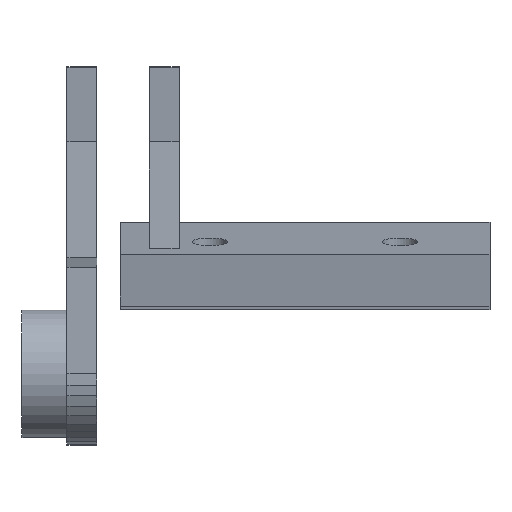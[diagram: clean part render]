
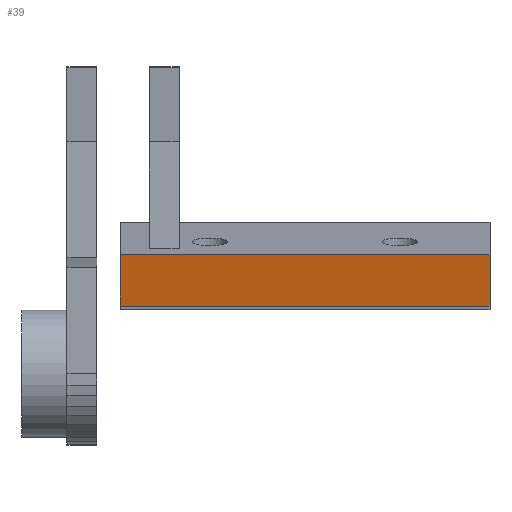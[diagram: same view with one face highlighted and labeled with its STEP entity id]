
A CAD part, left-side view. The second image highlights one B-rep face of the part: STEP entity #39.
In plain terms, the highlighted planar face has unit normal (-0.976, 0, -0.216).
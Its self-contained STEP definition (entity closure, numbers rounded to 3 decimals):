
#39 = ADVANCED_FACE('',(#40),#54,.F.);
#40 = FACE_BOUND('',#41,.F.);
#41 = EDGE_LOOP('',(#42,#77,#105,#133));
#42 = ORIENTED_EDGE('',*,*,#43,.F.);
#43 = EDGE_CURVE('',#44,#46,#48,.T.);
#44 = VERTEX_POINT('',#45);
#45 = CARTESIAN_POINT('',(1.71,22.2,-185.932));
#46 = VERTEX_POINT('',#47);
#47 = CARTESIAN_POINT('',(0.195,22.2,-179.097));
#48 = SURFACE_CURVE('',#49,(#53,#65),.PCURVE_S1.);
#49 = LINE('',#50,#51);
#50 = CARTESIAN_POINT('',(1.71,22.2,-185.932));
#51 = VECTOR('',#52,1.);
#52 = DIRECTION('',(-0.216,0.,0.976));
#53 = PCURVE('',#54,#59);
#54 = PLANE('',#55);
#55 = AXIS2_PLACEMENT_3D('',#56,#57,#58);
#56 = CARTESIAN_POINT('',(1.71,22.2,-185.932));
#57 = DIRECTION('',(0.976,0.,0.216));
#58 = DIRECTION('',(-0.216,0.,0.976));
#59 = DEFINITIONAL_REPRESENTATION('',(#60),#64);
#60 = LINE('',#61,#62);
#61 = CARTESIAN_POINT('',(0.,0.));
#62 = VECTOR('',#63,1.);
#63 = DIRECTION('',(1.,0.));
#64 = ( GEOMETRIC_REPRESENTATION_CONTEXT(2) 
PARAMETRIC_REPRESENTATION_CONTEXT() REPRESENTATION_CONTEXT('2D SPACE',''
  ) );
#65 = PCURVE('',#66,#71);
#66 = PLANE('',#67);
#67 = AXIS2_PLACEMENT_3D('',#68,#69,#70);
#68 = CARTESIAN_POINT('',(1.71,22.2,-185.932));
#69 = DIRECTION('',(0.,1.,0.));
#70 = DIRECTION('',(-0.216,0.,0.976));
#71 = DEFINITIONAL_REPRESENTATION('',(#72),#76);
#72 = LINE('',#73,#74);
#73 = CARTESIAN_POINT('',(0.,0.));
#74 = VECTOR('',#75,1.);
#75 = DIRECTION('',(1.,0.));
#76 = ( GEOMETRIC_REPRESENTATION_CONTEXT(2) 
PARAMETRIC_REPRESENTATION_CONTEXT() REPRESENTATION_CONTEXT('2D SPACE',''
  ) );
#77 = ORIENTED_EDGE('',*,*,#78,.T.);
#78 = EDGE_CURVE('',#44,#79,#81,.T.);
#79 = VERTEX_POINT('',#80);
#80 = CARTESIAN_POINT('',(1.71,71.6,-185.932));
#81 = SURFACE_CURVE('',#82,(#86,#93),.PCURVE_S1.);
#82 = LINE('',#83,#84);
#83 = CARTESIAN_POINT('',(1.71,22.2,-185.932));
#84 = VECTOR('',#85,1.);
#85 = DIRECTION('',(0.,1.,0.));
#86 = PCURVE('',#54,#87);
#87 = DEFINITIONAL_REPRESENTATION('',(#88),#92);
#88 = LINE('',#89,#90);
#89 = CARTESIAN_POINT('',(0.,0.));
#90 = VECTOR('',#91,1.);
#91 = DIRECTION('',(0.,-1.));
#92 = ( GEOMETRIC_REPRESENTATION_CONTEXT(2) 
PARAMETRIC_REPRESENTATION_CONTEXT() REPRESENTATION_CONTEXT('2D SPACE',''
  ) );
#93 = PCURVE('',#94,#99);
#94 = PLANE('',#95);
#95 = AXIS2_PLACEMENT_3D('',#96,#97,#98);
#96 = CARTESIAN_POINT('',(1.71,22.2,-185.932));
#97 = DIRECTION('',(-0.216,0.,0.976));
#98 = DIRECTION('',(0.976,0.,0.216));
#99 = DEFINITIONAL_REPRESENTATION('',(#100),#104);
#100 = LINE('',#101,#102);
#101 = CARTESIAN_POINT('',(0.,0.));
#102 = VECTOR('',#103,1.);
#103 = DIRECTION('',(0.,1.));
#104 = ( GEOMETRIC_REPRESENTATION_CONTEXT(2) 
PARAMETRIC_REPRESENTATION_CONTEXT() REPRESENTATION_CONTEXT('2D SPACE',''
  ) );
#105 = ORIENTED_EDGE('',*,*,#106,.T.);
#106 = EDGE_CURVE('',#79,#107,#109,.T.);
#107 = VERTEX_POINT('',#108);
#108 = CARTESIAN_POINT('',(0.195,71.6,-179.097));
#109 = SURFACE_CURVE('',#110,(#114,#121),.PCURVE_S1.);
#110 = LINE('',#111,#112);
#111 = CARTESIAN_POINT('',(1.71,71.6,-185.932));
#112 = VECTOR('',#113,1.);
#113 = DIRECTION('',(-0.216,0.,0.976));
#114 = PCURVE('',#54,#115);
#115 = DEFINITIONAL_REPRESENTATION('',(#116),#120);
#116 = LINE('',#117,#118);
#117 = CARTESIAN_POINT('',(0.,-49.4));
#118 = VECTOR('',#119,1.);
#119 = DIRECTION('',(1.,0.));
#120 = ( GEOMETRIC_REPRESENTATION_CONTEXT(2) 
PARAMETRIC_REPRESENTATION_CONTEXT() REPRESENTATION_CONTEXT('2D SPACE',''
  ) );
#121 = PCURVE('',#122,#127);
#122 = PLANE('',#123);
#123 = AXIS2_PLACEMENT_3D('',#124,#125,#126);
#124 = CARTESIAN_POINT('',(1.71,71.6,-185.932));
#125 = DIRECTION('',(0.,1.,0.));
#126 = DIRECTION('',(-0.216,0.,0.976));
#127 = DEFINITIONAL_REPRESENTATION('',(#128),#132);
#128 = LINE('',#129,#130);
#129 = CARTESIAN_POINT('',(0.,0.));
#130 = VECTOR('',#131,1.);
#131 = DIRECTION('',(1.,0.));
#132 = ( GEOMETRIC_REPRESENTATION_CONTEXT(2) 
PARAMETRIC_REPRESENTATION_CONTEXT() REPRESENTATION_CONTEXT('2D SPACE',''
  ) );
#133 = ORIENTED_EDGE('',*,*,#134,.F.);
#134 = EDGE_CURVE('',#46,#107,#135,.T.);
#135 = SURFACE_CURVE('',#136,(#140,#147),.PCURVE_S1.);
#136 = LINE('',#137,#138);
#137 = CARTESIAN_POINT('',(0.195,22.2,-179.097));
#138 = VECTOR('',#139,1.);
#139 = DIRECTION('',(0.,1.,0.));
#140 = PCURVE('',#54,#141);
#141 = DEFINITIONAL_REPRESENTATION('',(#142),#146);
#142 = LINE('',#143,#144);
#143 = CARTESIAN_POINT('',(7.,0.));
#144 = VECTOR('',#145,1.);
#145 = DIRECTION('',(0.,-1.));
#146 = ( GEOMETRIC_REPRESENTATION_CONTEXT(2) 
PARAMETRIC_REPRESENTATION_CONTEXT() REPRESENTATION_CONTEXT('2D SPACE',''
  ) );
#147 = PCURVE('',#148,#153);
#148 = PLANE('',#149);
#149 = AXIS2_PLACEMENT_3D('',#150,#151,#152);
#150 = CARTESIAN_POINT('',(0.195,22.2,-179.097));
#151 = DIRECTION('',(-0.216,0.,0.976));
#152 = DIRECTION('',(0.976,0.,0.216));
#153 = DEFINITIONAL_REPRESENTATION('',(#154),#158);
#154 = LINE('',#155,#156);
#155 = CARTESIAN_POINT('',(0.,0.));
#156 = VECTOR('',#157,1.);
#157 = DIRECTION('',(0.,1.));
#158 = ( GEOMETRIC_REPRESENTATION_CONTEXT(2) 
PARAMETRIC_REPRESENTATION_CONTEXT() REPRESENTATION_CONTEXT('2D SPACE',''
  ) );
